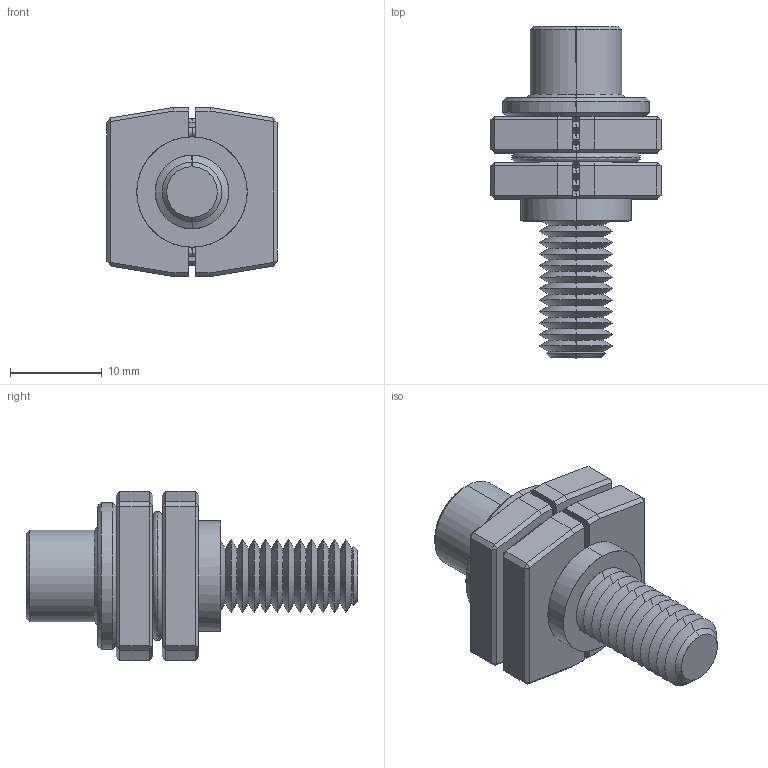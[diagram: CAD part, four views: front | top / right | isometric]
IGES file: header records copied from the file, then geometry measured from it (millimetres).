
Start section: SolidWorks IGES file using analytic representation for surfaces
Global section: file name: C:\Users\liam_\OneDrive\Documents\WORK\Work for WixRoyd\Job Files\J-00025 - Matt Davis CAD - 20191106\04. CAD Drawings\Wixroyd20191106\12454_v2\12454_v2_20191115_IGES\12454.W002B.igs; native system: SolidWorks 2017; preprocessor: SolidWorks 2017; author: liam_; date: 191115.170809; units: millimetre
Bounding box: 18.5 x 36.1 x 18.4 mm (x, y, z)
Surface area: 4006.1 mm2 (no closed solid volume)
Topology: 0 solids, 0 shells, 233 faces, 1410 edges, 1408 vertices
Faces by surface type: bspline 127, revolution 106
